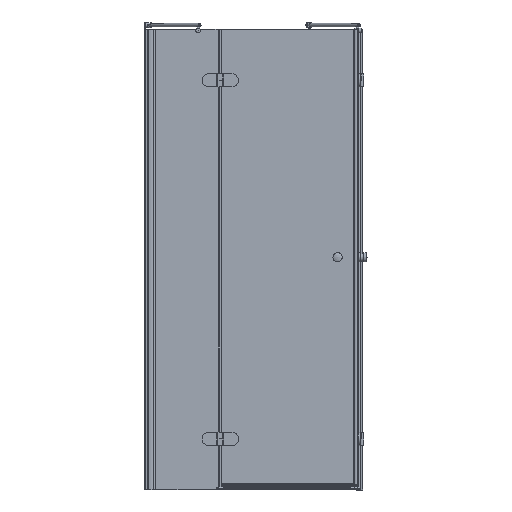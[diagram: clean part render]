
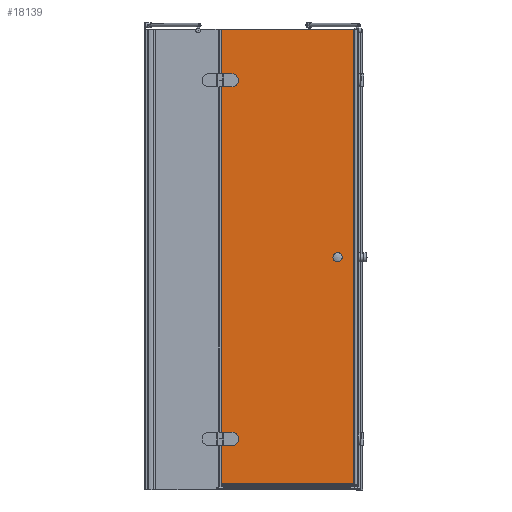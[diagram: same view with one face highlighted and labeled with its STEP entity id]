
A CAD part, front view. The second image highlights one B-rep face of the part: STEP entity #18139.
In plain terms, the highlighted planar face has unit normal (0, -1, 0).
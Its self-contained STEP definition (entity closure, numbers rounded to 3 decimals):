
#319=LINE($,#25391,#2165);
#322=LINE($,#25397,#2168);
#326=LINE($,#25407,#2172);
#369=LINE($,#25519,#2215);
#372=LINE($,#25525,#2218);
#376=LINE($,#25535,#2222);
#1784=LINE($,#29946,#3630);
#1829=LINE($,#30153,#3675);
#1836=LINE($,#30166,#3682);
#1876=LINE($,#30261,#3722);
#2165=VECTOR($,#20443,52.);
#2168=VECTOR($,#20448,23.);
#2172=VECTOR($,#20460,23.);
#2215=VECTOR($,#20567,52.);
#2218=VECTOR($,#20572,23.);
#2222=VECTOR($,#20584,23.);
#3630=VECTOR($,#24198,1875.4);
#3675=VECTOR($,#24345,1875.4);
#3682=VECTOR($,#24364,550.);
#3722=VECTOR($,#24484,550.);
#4149=FACE_BOUND($,#6200,.T.);
#4150=FACE_BOUND($,#6201,.T.);
#4151=FACE_BOUND($,#6202,.T.);
#6200=EDGE_LOOP($,(#15402,#15403,#15404,#15405));
#6201=EDGE_LOOP($,(#15406,#15407,#15408,#15409));
#6202=EDGE_LOOP($,(#15410,#15411,#15412,#15413));
#6320=CIRCLE($,#18416,26.);
#6332=CIRCLE($,#18453,26.);
#6981=VERTEX_POINT($,#25388);
#6982=VERTEX_POINT($,#25390);
#6984=VERTEX_POINT($,#25396);
#6986=VERTEX_POINT($,#25402);
#7022=VERTEX_POINT($,#25516);
#7023=VERTEX_POINT($,#25518);
#7025=VERTEX_POINT($,#25524);
#7027=VERTEX_POINT($,#25530);
#8121=VERTEX_POINT($,#29943);
#8122=VERTEX_POINT($,#29945);
#8184=VERTEX_POINT($,#30138);
#8185=VERTEX_POINT($,#30151);
#8589=EDGE_CURVE($,#6982,#6981,#319,.T.);
#8592=EDGE_CURVE($,#6984,#6982,#322,.T.);
#8595=EDGE_CURVE($,#6986,#6984,#6320,.T.);
#8598=EDGE_CURVE($,#6981,#6986,#326,.T.);
#8651=EDGE_CURVE($,#7023,#7022,#369,.T.);
#8654=EDGE_CURVE($,#7025,#7023,#372,.T.);
#8657=EDGE_CURVE($,#7027,#7025,#6332,.T.);
#8660=EDGE_CURVE($,#7022,#7027,#376,.T.);
#10484=EDGE_CURVE($,#8121,#8122,#1784,.T.);
#10564=EDGE_CURVE($,#8184,#8185,#1829,.T.);
#10571=EDGE_CURVE($,#8121,#8184,#1836,.T.);
#10619=EDGE_CURVE($,#8122,#8185,#1876,.T.);
#15402=ORIENTED_EDGE($,*,*,#8589,.T.);
#15403=ORIENTED_EDGE($,*,*,#8598,.T.);
#15404=ORIENTED_EDGE($,*,*,#8595,.T.);
#15405=ORIENTED_EDGE($,*,*,#8592,.T.);
#15406=ORIENTED_EDGE($,*,*,#8651,.T.);
#15407=ORIENTED_EDGE($,*,*,#8660,.T.);
#15408=ORIENTED_EDGE($,*,*,#8657,.T.);
#15409=ORIENTED_EDGE($,*,*,#8654,.T.);
#15410=ORIENTED_EDGE($,*,*,#10571,.T.);
#15411=ORIENTED_EDGE($,*,*,#10564,.T.);
#15412=ORIENTED_EDGE($,*,*,#10619,.F.);
#15413=ORIENTED_EDGE($,*,*,#10484,.F.);
#16235=PLANE($,#19654);
#18139=ADVANCED_FACE($,(#4149,#4150,#4151),#16235,.T.);
#18416=AXIS2_PLACEMENT_3D($,#25403,#20454,#20455);
#18453=AXIS2_PLACEMENT_3D($,#25531,#20578,#20579);
#19654=AXIS2_PLACEMENT_3D($,#30260,#24482,#24483);
#20443=DIRECTION($,(0.,0.,1.));
#20448=DIRECTION($,(-1.,0.,0.));
#20454=DIRECTION('center_axis',(0.,1.,0.));
#20455=DIRECTION('ref_axis',(0.,0.,
1.));
#20460=DIRECTION($,(1.,0.,0.));
#20567=DIRECTION($,(0.,0.,1.));
#20572=DIRECTION($,(-1.,0.,0.));
#20578=DIRECTION('center_axis',(0.,1.,0.));
#20579=DIRECTION('ref_axis',(0.,0.,
1.));
#20584=DIRECTION($,(1.,0.,0.));
#24198=DIRECTION($,(0.,0.,1.));
#24345=DIRECTION($,(0.,0.,1.));
#24364=DIRECTION($,(1.,0.,0.));
#24482=DIRECTION('center_axis',(0.,-1.,0.));
#24483=DIRECTION('ref_axis',(1.,0.,0.));
#24484=DIRECTION($,(1.,0.,0.));
#25388=CARTESIAN_POINT('',(787.733,-134.044,-278.056));
#25390=CARTESIAN_POINT('',(787.733,-134.044,-330.056));
#25391=CARTESIAN_POINT($,(787.733,-134.044,-412.056));
#25396=CARTESIAN_POINT('',(810.733,-134.044,-330.056));
#25397=CARTESIAN_POINT($,(788.733,-134.044,-330.056));
#25402=CARTESIAN_POINT('',(810.733,-134.044,-278.056));
#25403=CARTESIAN_POINT('Origin',(810.733,-134.044,-304.056));
#25407=CARTESIAN_POINT($,(777.233,-134.044,-278.056));
#25516=CARTESIAN_POINT('',(787.733,-134.044,1201.944));
#25518=CARTESIAN_POINT('',(787.733,-134.044,1149.944));
#25519=CARTESIAN_POINT($,(787.733,-134.044,327.944));
#25524=CARTESIAN_POINT('',(810.733,-134.044,1149.944));
#25525=CARTESIAN_POINT($,(788.733,-134.044,1149.944));
#25530=CARTESIAN_POINT('',(810.733,-134.044,1201.944));
#25531=CARTESIAN_POINT('Origin',(810.733,-134.044,1175.944));
#25535=CARTESIAN_POINT($,(777.233,-134.044,1201.944));
#29943=CARTESIAN_POINT('',(766.733,-134.044,-489.456));
#29945=CARTESIAN_POINT('',(766.733,-134.044,1385.944));
#29946=CARTESIAN_POINT($,(766.733,-134.044,-494.056));
#30138=CARTESIAN_POINT('',(1316.733,-134.044,-489.456));
#30151=CARTESIAN_POINT('',(1316.733,-134.044,1385.944));
#30153=CARTESIAN_POINT($,(1316.733,-134.044,-494.056));
#30166=CARTESIAN_POINT($,(766.733,-134.044,-489.456));
#30260=CARTESIAN_POINT('Origin',(766.733,-134.044,-494.056));
#30261=CARTESIAN_POINT($,(766.733,-134.044,1385.944));
